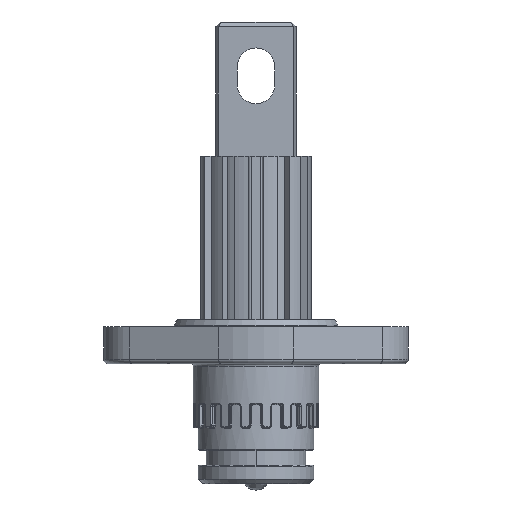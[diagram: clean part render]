
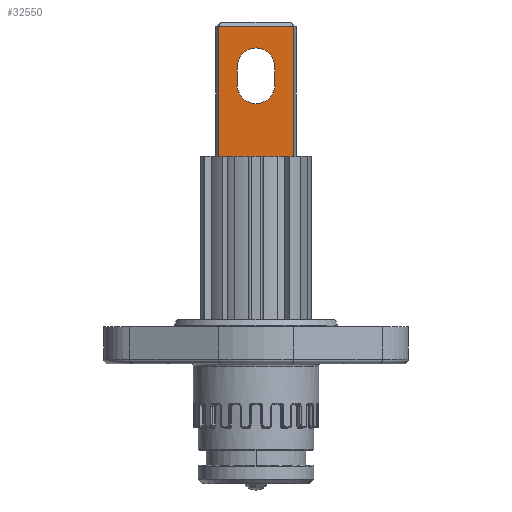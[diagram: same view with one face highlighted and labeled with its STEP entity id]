
A CAD part, front view. The second image highlights one B-rep face of the part: STEP entity #32550.
In plain terms, the highlighted planar face has unit normal (0, -1, 0).
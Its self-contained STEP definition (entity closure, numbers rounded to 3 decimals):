
#8909=DIRECTION('',(1.,0.,0.));
#8910=VECTOR('',#8909,8.414);
#8911=CARTESIAN_POINT('',(-4.207,-1.525,23.1));
#8912=LINE('',#8911,#8910);
#9166=CARTESIAN_POINT('',(0.,-1.525,31.1));
#9167=DIRECTION('',(0.,1.,0.));
#9168=DIRECTION('',(1.,0.,0.));
#9169=AXIS2_PLACEMENT_3D('',#9166,#9167,#9168);
#9171=DIRECTION('',(0.,0.,-1.));
#9172=VECTOR('',#9171,2.);
#9173=CARTESIAN_POINT('',(2.1,-1.525,33.1));
#9174=LINE('',#9173,#9172);
#9175=CARTESIAN_POINT('',(0.,-1.525,33.1));
#9176=DIRECTION('',(0.,1.,0.));
#9177=DIRECTION('',(-1.,0.,0.));
#9178=AXIS2_PLACEMENT_3D('',#9175,#9176,#9177);
#9180=DIRECTION('',(0.,0.,1.));
#9181=VECTOR('',#9180,2.);
#9182=CARTESIAN_POINT('',(-2.1,-1.525,31.1));
#9183=LINE('',#9182,#9181);
#9184=DIRECTION('',(0.,0.,1.));
#9185=VECTOR('',#9184,14.5);
#9186=CARTESIAN_POINT('',(-4.207,-1.525,23.1));
#9187=LINE('',#9186,#9185);
#9188=DIRECTION('',(1.,0.,0.));
#9189=VECTOR('',#9188,8.414);
#9190=CARTESIAN_POINT('',(-4.207,-1.525,
37.6));
#9191=LINE('',#9190,#9189);
#9192=DIRECTION('',(0.,0.,-1.));
#9193=VECTOR('',#9192,14.5);
#9194=CARTESIAN_POINT('',(4.207,-1.525,37.6));
#9195=LINE('',#9194,#9193);
#11051=CARTESIAN_POINT('',(2.1,-1.525,31.1));
#11052=CARTESIAN_POINT('',(-2.1,-1.525,31.1));
#11053=VERTEX_POINT('',#11051);
#11054=VERTEX_POINT('',#11052);
#11055=CARTESIAN_POINT('',(-2.1,-1.525,33.1));
#11056=VERTEX_POINT('',#11055);
#11057=CARTESIAN_POINT('',(2.1,-1.525,33.1));
#11058=VERTEX_POINT('',#11057);
#11075=CARTESIAN_POINT('',(-4.207,-1.525,37.6));
#11077=VERTEX_POINT('',#11075);
#11081=CARTESIAN_POINT('',(4.207,-1.525,
37.6));
#11082=VERTEX_POINT('',#11081);
#11092=CARTESIAN_POINT('',(-4.207,-1.525,23.1));
#11094=VERTEX_POINT('',#11092);
#11095=CARTESIAN_POINT('',(4.207,-1.525,23.1));
#11097=VERTEX_POINT('',#11095);
#32529=CARTESIAN_POINT('',(-4.207,-1.525,20.7));
#32530=DIRECTION('',(0.,1.,0.));
#32531=DIRECTION('',(1.,0.,0.));
#32532=AXIS2_PLACEMENT_3D('',#32529,#32530,#32531);
#32533=PLANE('',#32532);
#32534=ORIENTED_EDGE('',*,*,#32471,.T.);
#32536=ORIENTED_EDGE('',*,*,#32535,.T.);
#32537=ORIENTED_EDGE('',*,*,#32482,.T.);
#32538=ORIENTED_EDGE('',*,*,#31830,.F.);
#32539=EDGE_LOOP('',(#32534,#32536,#32537,#32538));
#32540=FACE_OUTER_BOUND('',#32539,.F.);
#32541=ORIENTED_EDGE('',*,*,#32519,.F.);
#32543=ORIENTED_EDGE('',*,*,#32542,.F.);
#32545=ORIENTED_EDGE('',*,*,#32544,.F.);
#32547=ORIENTED_EDGE('',*,*,#32546,.F.);
#32548=EDGE_LOOP('',(#32541,#32543,#32545,#32547));
#32549=FACE_BOUND('',#32548,.F.);
#32550=ADVANCED_FACE('',(#32540,#32549),#32533,.F.);
#9170=CIRCLE('',#9169,2.1);
#9179=CIRCLE('',#9178,2.1);
#31830=EDGE_CURVE('',#11094,#11097,#8912,.T.);
#32471=EDGE_CURVE('',#11094,#11077,#9187,.T.);
#32482=EDGE_CURVE('',#11082,#11097,#9195,.T.);
#32519=EDGE_CURVE('',#11053,#11054,#9170,.T.);
#32535=EDGE_CURVE('',#11077,#11082,#9191,.T.);
#32542=EDGE_CURVE('',#11058,#11053,#9174,.T.);
#32544=EDGE_CURVE('',#11056,#11058,#9179,.T.);
#32546=EDGE_CURVE('',#11054,#11056,#9183,.T.);
